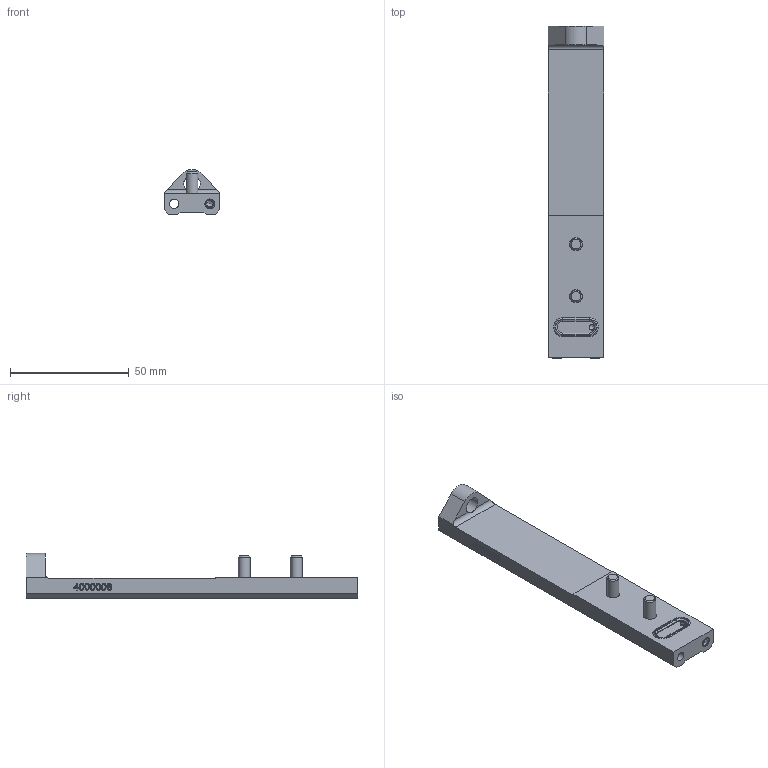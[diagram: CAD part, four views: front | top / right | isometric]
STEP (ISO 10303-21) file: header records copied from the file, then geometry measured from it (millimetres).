
FILE_DESCRIPTION((''),'2;1');
FILE_NAME('C:\Test\stp\4000007.stp','2008-03-18T15:19:03',('is'),(''),'Autodesk Inventor 10','Autodesk Inventor 10','');
FILE_SCHEMA(('AUTOMOTIVE_DESIGN { 1 0 10303 214 1 1 1 1 }'));
Length unit declared in the file: millimetre
Products named in the file (1): 4000008
Bounding box: 23.6 x 140 x 19 mm (x, y, z)
Volume: 24313 mm3; surface area: 14417.4 mm2
Topology: 1 solids, 2 shells, 201 faces, 492 edges, 320 vertices
Faces by surface type: bspline 82, plane 81, cylinder 21, torus 10, cone 7
Full cylindrical faces by diameter (mm): 3.8 x1, 5 x2, 8.5 x2
Entity records: 7674 total; most frequent: CARTESIAN_POINT 3590, ORIENTED_EDGE 908, DIRECTION 618, EDGE_CURVE 454, VERTEX_POINT 309, EDGE_LOOP 261, VECTOR 222, LINE 222
